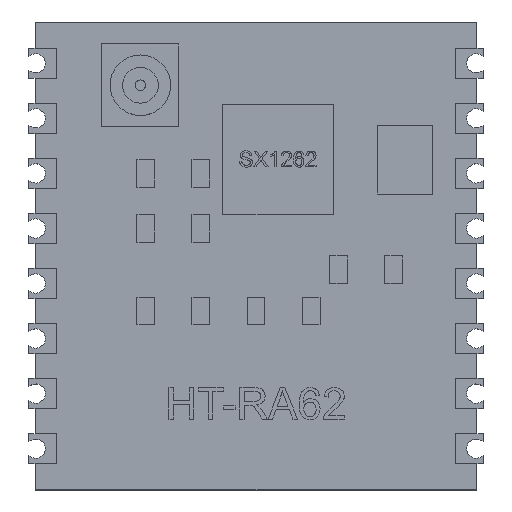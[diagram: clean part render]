
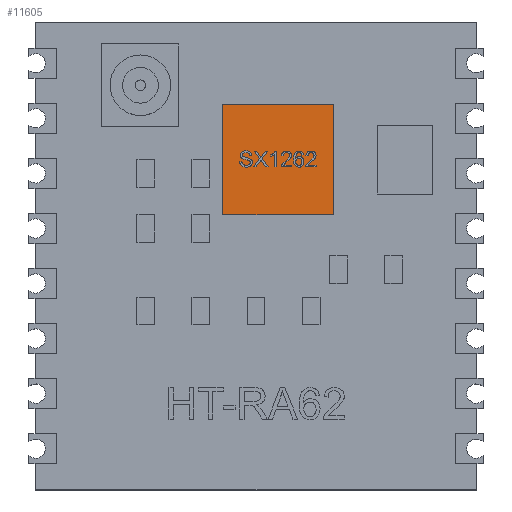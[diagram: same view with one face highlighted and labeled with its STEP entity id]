
A CAD part, top view. The second image highlights one B-rep face of the part: STEP entity #11605.
In plain terms, the highlighted planar face has unit normal (0, 0, 1).
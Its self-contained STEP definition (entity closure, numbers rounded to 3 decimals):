
#11291 = VERTEX_POINT('',#11292);
#11292 = CARTESIAN_POINT('',(-1.2,1.5,1.8));
#11299 = PLANE('',#11300);
#11300 = AXIS2_PLACEMENT_3D('',#11301,#11302,#11303);
#11301 = CARTESIAN_POINT('',(-1.2,1.5,0.9));
#11302 = DIRECTION('',(1.,0.,0.));
#11303 = DIRECTION('',(0.,0.,1.));
#11311 = PLANE('',#11312);
#11312 = AXIS2_PLACEMENT_3D('',#11313,#11314,#11315);
#11313 = CARTESIAN_POINT('',(-1.2,1.5,0.9));
#11314 = DIRECTION('',(0.,1.,0.));
#11315 = DIRECTION('',(0.,0.,1.));
#11352 = VERTEX_POINT('',#11353);
#11353 = CARTESIAN_POINT('',(-1.2,5.5,1.8));
#11367 = PLANE('',#11368);
#11368 = AXIS2_PLACEMENT_3D('',#11369,#11370,#11371);
#11369 = CARTESIAN_POINT('',(-1.2,5.5,0.9));
#11370 = DIRECTION('',(0.,1.,0.));
#11371 = DIRECTION('',(0.,0.,1.));
#11379 = EDGE_CURVE('',#11291,#11352,#11380,.T.);
#11380 = SURFACE_CURVE('',#11381,(#11385,#11392),.PCURVE_S1.);
#11381 = LINE('',#11382,#11383);
#11382 = CARTESIAN_POINT('',(-1.2,1.5,1.8));
#11383 = VECTOR('',#11384,1.);
#11384 = DIRECTION('',(0.,1.,0.));
#11385 = PCURVE('',#11299,#11386);
#11386 = DEFINITIONAL_REPRESENTATION('',(#11387),#11391);
#11387 = LINE('',#11388,#11389);
#11388 = CARTESIAN_POINT('',(0.9,0.));
#11389 = VECTOR('',#11390,1.);
#11390 = DIRECTION('',(0.,-1.));
#11391 = ( GEOMETRIC_REPRESENTATION_CONTEXT(2) 
PARAMETRIC_REPRESENTATION_CONTEXT() REPRESENTATION_CONTEXT('2D SPACE',''
  ) );
#11392 = PCURVE('',#11393,#11398);
#11393 = PLANE('',#11394);
#11394 = AXIS2_PLACEMENT_3D('',#11395,#11396,#11397);
#11395 = CARTESIAN_POINT('',(-1.2,1.5,1.8));
#11396 = DIRECTION('',(0.,0.,1.));
#11397 = DIRECTION('',(1.,0.,0.));
#11398 = DEFINITIONAL_REPRESENTATION('',(#11399),#11403);
#11399 = LINE('',#11400,#11401);
#11400 = CARTESIAN_POINT('',(0.,0.));
#11401 = VECTOR('',#11402,1.);
#11402 = DIRECTION('',(0.,1.));
#11403 = ( GEOMETRIC_REPRESENTATION_CONTEXT(2) 
PARAMETRIC_REPRESENTATION_CONTEXT() REPRESENTATION_CONTEXT('2D SPACE',''
  ) );
#11411 = VERTEX_POINT('',#11412);
#11412 = CARTESIAN_POINT('',(2.8,1.5,1.8));
#11419 = PLANE('',#11420);
#11420 = AXIS2_PLACEMENT_3D('',#11421,#11422,#11423);
#11421 = CARTESIAN_POINT('',(2.8,1.5,0.9));
#11422 = DIRECTION('',(1.,0.,0.));
#11423 = DIRECTION('',(0.,0.,1.));
#11462 = VERTEX_POINT('',#11463);
#11463 = CARTESIAN_POINT('',(2.8,5.5,1.8));
#11484 = EDGE_CURVE('',#11411,#11462,#11485,.T.);
#11485 = SURFACE_CURVE('',#11486,(#11490,#11497),.PCURVE_S1.);
#11486 = LINE('',#11487,#11488);
#11487 = CARTESIAN_POINT('',(2.8,1.5,1.8));
#11488 = VECTOR('',#11489,1.);
#11489 = DIRECTION('',(0.,1.,0.));
#11490 = PCURVE('',#11419,#11491);
#11491 = DEFINITIONAL_REPRESENTATION('',(#11492),#11496);
#11492 = LINE('',#11493,#11494);
#11493 = CARTESIAN_POINT('',(0.9,0.));
#11494 = VECTOR('',#11495,1.);
#11495 = DIRECTION('',(0.,-1.));
#11496 = ( GEOMETRIC_REPRESENTATION_CONTEXT(2) 
PARAMETRIC_REPRESENTATION_CONTEXT() REPRESENTATION_CONTEXT('2D SPACE',''
  ) );
#11497 = PCURVE('',#11393,#11498);
#11498 = DEFINITIONAL_REPRESENTATION('',(#11499),#11503);
#11499 = LINE('',#11500,#11501);
#11500 = CARTESIAN_POINT('',(4.,0.));
#11501 = VECTOR('',#11502,1.);
#11502 = DIRECTION('',(0.,1.));
#11503 = ( GEOMETRIC_REPRESENTATION_CONTEXT(2) 
PARAMETRIC_REPRESENTATION_CONTEXT() REPRESENTATION_CONTEXT('2D SPACE',''
  ) );
#11530 = EDGE_CURVE('',#11291,#11411,#11531,.T.);
#11531 = SURFACE_CURVE('',#11532,(#11536,#11543),.PCURVE_S1.);
#11532 = LINE('',#11533,#11534);
#11533 = CARTESIAN_POINT('',(-1.2,1.5,1.8));
#11534 = VECTOR('',#11535,1.);
#11535 = DIRECTION('',(1.,0.,0.));
#11536 = PCURVE('',#11311,#11537);
#11537 = DEFINITIONAL_REPRESENTATION('',(#11538),#11542);
#11538 = LINE('',#11539,#11540);
#11539 = CARTESIAN_POINT('',(0.9,0.));
#11540 = VECTOR('',#11541,1.);
#11541 = DIRECTION('',(0.,1.));
#11542 = ( GEOMETRIC_REPRESENTATION_CONTEXT(2) 
PARAMETRIC_REPRESENTATION_CONTEXT() REPRESENTATION_CONTEXT('2D SPACE',''
  ) );
#11543 = PCURVE('',#11393,#11544);
#11544 = DEFINITIONAL_REPRESENTATION('',(#11545),#11549);
#11545 = LINE('',#11546,#11547);
#11546 = CARTESIAN_POINT('',(0.,0.));
#11547 = VECTOR('',#11548,1.);
#11548 = DIRECTION('',(1.,0.));
#11549 = ( GEOMETRIC_REPRESENTATION_CONTEXT(2) 
PARAMETRIC_REPRESENTATION_CONTEXT() REPRESENTATION_CONTEXT('2D SPACE',''
  ) );
#11577 = EDGE_CURVE('',#11352,#11462,#11578,.T.);
#11578 = SURFACE_CURVE('',#11579,(#11583,#11590),.PCURVE_S1.);
#11579 = LINE('',#11580,#11581);
#11580 = CARTESIAN_POINT('',(-1.2,5.5,1.8));
#11581 = VECTOR('',#11582,1.);
#11582 = DIRECTION('',(1.,0.,0.));
#11583 = PCURVE('',#11367,#11584);
#11584 = DEFINITIONAL_REPRESENTATION('',(#11585),#11589);
#11585 = LINE('',#11586,#11587);
#11586 = CARTESIAN_POINT('',(0.9,0.));
#11587 = VECTOR('',#11588,1.);
#11588 = DIRECTION('',(0.,1.));
#11589 = ( GEOMETRIC_REPRESENTATION_CONTEXT(2) 
PARAMETRIC_REPRESENTATION_CONTEXT() REPRESENTATION_CONTEXT('2D SPACE',''
  ) );
#11590 = PCURVE('',#11393,#11591);
#11591 = DEFINITIONAL_REPRESENTATION('',(#11592),#11596);
#11592 = LINE('',#11593,#11594);
#11593 = CARTESIAN_POINT('',(0.,4.));
#11594 = VECTOR('',#11595,1.);
#11595 = DIRECTION('',(1.,0.));
#11596 = ( GEOMETRIC_REPRESENTATION_CONTEXT(2) 
PARAMETRIC_REPRESENTATION_CONTEXT() REPRESENTATION_CONTEXT('2D SPACE',''
  ) );
#11605 = ADVANCED_FACE('',(#11606),#11393,.T.);
#11606 = FACE_BOUND('',#11607,.T.);
#11607 = EDGE_LOOP('',(#11608,#11609,#11610,#11611));
#11608 = ORIENTED_EDGE('',*,*,#11379,.F.);
#11609 = ORIENTED_EDGE('',*,*,#11530,.T.);
#11610 = ORIENTED_EDGE('',*,*,#11484,.T.);
#11611 = ORIENTED_EDGE('',*,*,#11577,.F.);
